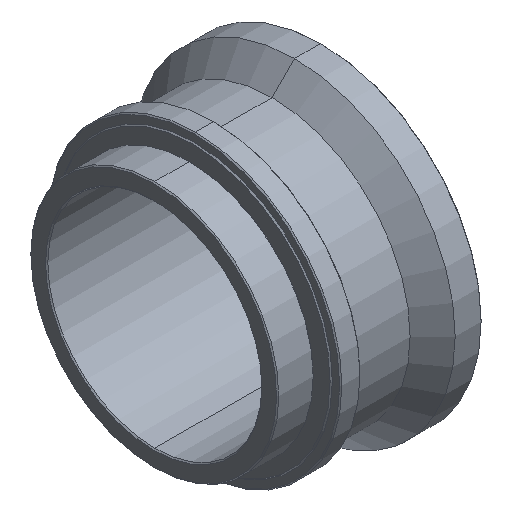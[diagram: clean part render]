
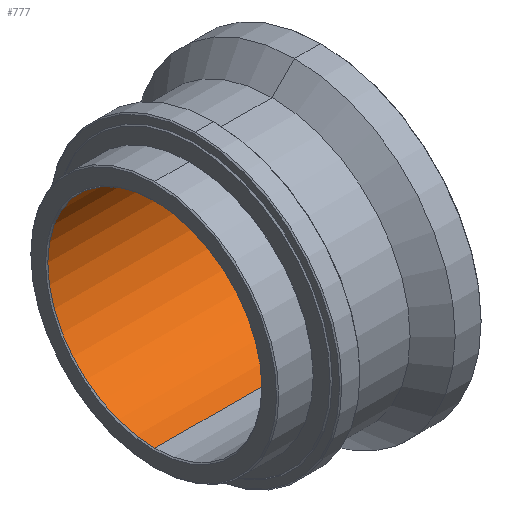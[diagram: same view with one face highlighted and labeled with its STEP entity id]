
A CAD part, isometric view. The second image highlights one B-rep face of the part: STEP entity #777.
In plain terms, the highlighted cylindrical face has radius 19 mm (diameter 38 mm), a partial arc.
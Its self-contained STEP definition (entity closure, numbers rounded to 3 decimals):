
#58 = DIRECTION ( 'NONE',  ( 0., 0., 1. ) ) ;
#63 = DIRECTION ( 'NONE',  ( -1., 0., 0. ) ) ;
#71 = CARTESIAN_POINT ( 'NONE',  ( 29.75, 0., 0. ) ) ;
#74 = VECTOR ( 'NONE', #1104, 1000. ) ;
#140 = VECTOR ( 'NONE', #1094, 1000. ) ;
#180 = EDGE_CURVE ( 'NONE', #1291, #385, #1330, .T. ) ;
#186 = DIRECTION ( 'NONE',  ( 0., 0., 1. ) ) ;
#268 = CARTESIAN_POINT ( 'NONE',  ( 0., 0., 19. ) ) ;
#282 = CARTESIAN_POINT ( 'NONE',  ( 29.75, 0., -19. ) ) ;
#295 = ORIENTED_EDGE ( 'NONE', *, *, #883, .T. ) ;
#348 = EDGE_CURVE ( 'NONE', #1291, #1315, #1027, .T. ) ;
#382 = LINE ( 'NONE', #391, #74 ) ;
#385 = VERTEX_POINT ( 'NONE', #687 ) ;
#391 = CARTESIAN_POINT ( 'NONE',  ( 0., 0., -19. ) ) ;
#426 = AXIS2_PLACEMENT_3D ( 'NONE', #1486, #63, #58 ) ;
#444 = CIRCLE ( 'NONE', #1131, 19. ) ;
#544 = CYLINDRICAL_SURFACE ( 'NONE', #426, 19. ) ;
#557 = ORIENTED_EDGE ( 'NONE', *, *, #348, .F. ) ;
#605 = CARTESIAN_POINT ( 'NONE',  ( 0.2, 0., 0. ) ) ;
#687 = CARTESIAN_POINT ( 'NONE',  ( 0.2, 0., 19. ) ) ;
#694 = EDGE_CURVE ( 'NONE', #1315, #1429, #382, .T. ) ;
#730 = DIRECTION ( 'NONE',  ( 0., 0., 1. ) ) ;
#777 = ADVANCED_FACE ( 'NONE', ( #1172 ), #544, .F. ) ;
#883 = EDGE_CURVE ( 'NONE', #385, #1429, #444, .T. ) ;
#889 = DIRECTION ( 'NONE',  ( -1., 0., 0. ) ) ;
#1027 = CIRCLE ( 'NONE', #1445, 19. ) ;
#1094 = DIRECTION ( 'NONE',  ( -1., 0., 0. ) ) ;
#1100 = ORIENTED_EDGE ( 'NONE', *, *, #180, .T. ) ;
#1104 = DIRECTION ( 'NONE',  ( -1., 0., 0. ) ) ;
#1131 = AXIS2_PLACEMENT_3D ( 'NONE', #605, #1444, #730 ) ;
#1166 = ORIENTED_EDGE ( 'NONE', *, *, #694, .F. ) ;
#1170 = EDGE_LOOP ( 'NONE', ( #1166, #557, #1100, #295 ) ) ;
#1172 = FACE_OUTER_BOUND ( 'NONE', #1170, .T. ) ;
#1213 = CARTESIAN_POINT ( 'NONE',  ( 29.75, 0., 19. ) ) ;
#1251 = CARTESIAN_POINT ( 'NONE',  ( 0.2, 0., -19. ) ) ;
#1291 = VERTEX_POINT ( 'NONE', #1213 ) ;
#1315 = VERTEX_POINT ( 'NONE', #282 ) ;
#1330 = LINE ( 'NONE', #268, #140 ) ;
#1429 = VERTEX_POINT ( 'NONE', #1251 ) ;
#1444 = DIRECTION ( 'NONE',  ( -1., 0., 0. ) ) ;
#1445 = AXIS2_PLACEMENT_3D ( 'NONE', #71, #889, #186 ) ;
#1486 = CARTESIAN_POINT ( 'NONE',  ( 0., 0., 0. ) ) ;
